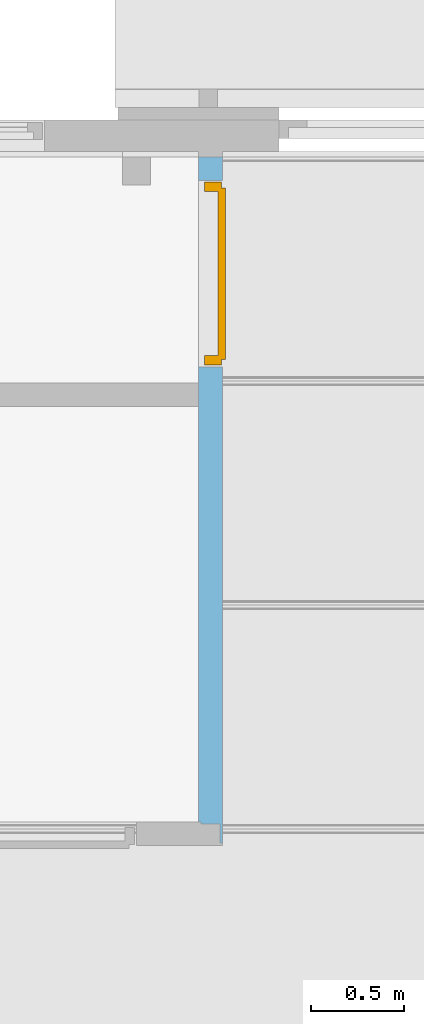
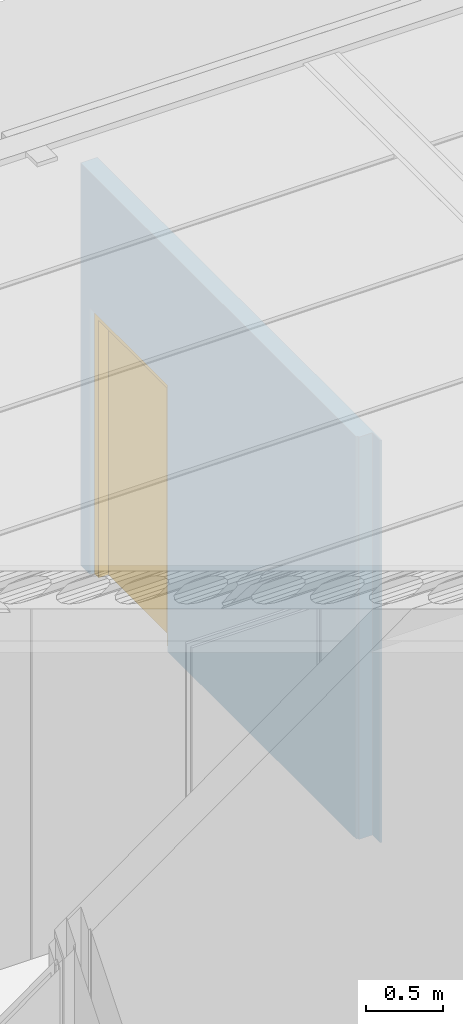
# One storey, part 38 of 45: 1 door, 1 opening, plus 1 element that does not belong to this part.
"""IFC2X3 building model written with IfcOpenShell, lengths in millimetres."""

import ifcopenshell
import ifcopenshell.guid

model = None  # the IFC model being written
_history = None  # IfcOwnerHistory: only IFC2X3 demands one
_inside = {}  # id of a spatial element -> (the spatial element, [elements in it])
_under = {}  # id of a project, library or spatial element -> (it, [spatial elements below it])
_declared = {}  # id of a project -> (the project, [libraries it declares])
_typed = {}  # id of a type object -> (the type object, [elements of that type])
_made_of = {}  # id of a material, layer set ... -> (it, [elements and type objects made of it])


def new_model(schema):
    """Start an empty IFC model of exactly this schema.

    Asked for "IFC4X3", IfcOpenShell would pick the latest addendum, in which some entities
    have other attributes; the version numbers below select the first issue.
    IFC2X3 requires an IfcOwnerHistory on every rooted entity: one is made here for all.
    """
    global model, _history
    if schema == "IFC4X3":
        model = ifcopenshell.file(schema_version=(4, 3, 0, 0))
    else:
        model = ifcopenshell.file(schema=schema)
    _inside.clear()
    _under.clear()
    _declared.clear()
    _typed.clear()
    _made_of.clear()
    _history = None
    if model.schema == "IFC2X3":
        org = make("IfcOrganization", Name="unknown")
        user = make(
            "IfcPersonAndOrganization",
            ThePerson=make("IfcPerson", FamilyName="unknown"),
            TheOrganization=org,
        )
        app = make(
            "IfcApplication",
            ApplicationDeveloper=org,
            Version="unknown",
            ApplicationFullName="unknown",
            ApplicationIdentifier="unknown",
        )
        _history = make(
            "IfcOwnerHistory",
            OwningUser=user,
            OwningApplication=app,
            ChangeAction="ADDED",
            CreationDate=0,
        )
    return model


def make(cls, **values):
    """One entity of the class cls with the attributes given. An attribute that is None is left unset."""
    return model.create_entity(
        cls, **{name: value for name, value in values.items() if value is not None}
    )


def entity(cls, *values):
    """Any entity or typed value of the class cls, its attributes in the order of the schema. None: left unset."""
    e = model.create_entity(cls)
    for i, value in enumerate(values):
        if value is not None:
            e[i] = value
    return e


def rooted(cls, **values):
    """An entity with a GlobalId (a new one), such as an element, a storey or a relation."""
    return make(cls, GlobalId=ifcopenshell.guid.new(), OwnerHistory=_history, **values)


def si_unit(unit_type, name, prefix=None):
    """IfcSIUnit, for example si_unit("LENGTHUNIT", "METRE", prefix="MILLI")."""
    return make("IfcSIUnit", UnitType=unit_type, Prefix=prefix, Name=name)


def converted_unit(unit_type, name, factor, base, dimensions=None, offset=None):
    """IfcConversionBasedUnit, such as the inch: factor (a typed value) times the base unit."""
    return make(
        "IfcConversionBasedUnit"
        if offset is None
        else "IfcConversionBasedUnitWithOffset",
        ConversionOffset=offset,
        Dimensions=None
        if dimensions is None
        else entity("IfcDimensionalExponents", *dimensions),
        UnitType=unit_type,
        Name=name,
        ConversionFactor=make(
            "IfcMeasureWithUnit", ValueComponent=factor, UnitComponent=base
        ),
    )


def assignment(units):
    """IfcUnitAssignment: the units of a project."""
    return None if units is None else make("IfcUnitAssignment", Units=units)


def point(xyz):
    """IfcCartesianPoint."""
    return None if xyz is None else make("IfcCartesianPoint", Coordinates=xyz)


def direction(xyz):
    """IfcDirection."""
    return None if xyz is None else make("IfcDirection", DirectionRatios=xyz)


def frame(location, z_axis=None, x_axis=None):
    """IfcAxis2Placement3D, a coordinate frame: its origin and axes. An axis left out is left unset."""
    return make(
        "IfcAxis2Placement3D",
        Location=point(location),
        Axis=direction(z_axis),
        RefDirection=direction(x_axis),
    )


def frame_2d(location, x_axis=None):
    """IfcAxis2Placement2D, a coordinate frame in the plane: its origin and x axis."""
    return make(
        "IfcAxis2Placement2D", Location=point(location), RefDirection=direction(x_axis)
    )


def origin():
    """The frame at (0, 0, 0) with its axes left unset."""
    return frame((0.0, 0.0, 0.0))


def origin_with_axes():
    """The frame at (0, 0, 0) with the z axis (0, 0, 1) and the x axis (1, 0, 0) written out."""
    return frame((0.0, 0.0, 0.0), z_axis=(0.0, 0.0, 1.0), x_axis=(1.0, 0.0, 0.0))


def place(relative_to, where):
    """IfcLocalPlacement: puts the frame where relative to a parent placement (None: the world)."""
    return make(
        "IfcLocalPlacement", PlacementRelTo=relative_to, RelativePlacement=where
    )


def context(
    kind, dimensions, precision=None, world=None, true_north=None, identifier=None
):
    """IfcGeometricRepresentationContext, for example the 3D "Model" context."""
    return make(
        "IfcGeometricRepresentationContext",
        ContextIdentifier=identifier,
        ContextType=kind,
        CoordinateSpaceDimension=dimensions,
        Precision=precision,
        WorldCoordinateSystem=world,
        TrueNorth=true_north,
    )


def subcontext(parent, identifier, kind, view, scale=None):
    """IfcGeometricRepresentationSubContext, for example "Body" below "Model"."""
    return make(
        "IfcGeometricRepresentationSubContext",
        ContextIdentifier=identifier,
        ContextType=kind,
        ParentContext=parent,
        TargetScale=scale,
        TargetView=view,
    )


def project(units=None, contexts=None):
    """IfcProject with its units and contexts."""
    return rooted(
        "IfcProject",
        Name="project",
        RepresentationContexts=contexts,
        UnitsInContext=assignment(units),
    )


def spatial(cls, under=None, at=None, **own):
    """A site, building, storey or space (cls), placed at a placement, below another one or the project."""
    s = rooted(cls, ObjectPlacement=at, **own)
    if under is not None:
        _under.setdefault(under.id(), (under, []))[1].append(s)
    return s


def polyline(points):
    """IfcPolyline through the points."""
    return make("IfcPolyline", Points=[point(p) for p in points])


def profile(cls, at=None, kind="AREA", **sizes):
    """A parametric profile (cls). Its sizes go by their IFC names, for example OverallWidth=200.0."""
    return make(cls, ProfileType=kind, Position=at, **sizes)


def rectangle(**sizes):
    """IfcRectangleProfileDef."""
    return profile("IfcRectangleProfileDef", **sizes)


def outline(outer, holes=None, kind="AREA"):
    """IfcArbitraryClosedProfileDef: a profile drawn as a closed curve; with holes, ...WithVoids."""
    if holes is None:
        return make("IfcArbitraryClosedProfileDef", ProfileType=kind, OuterCurve=outer)
    return make(
        "IfcArbitraryProfileDefWithVoids",
        ProfileType=kind,
        OuterCurve=outer,
        InnerCurves=holes,
    )


def extrude(swept, where, along, depth):
    """IfcExtrudedAreaSolid: the profile swept, set in the frame where, extruded along a direction by depth."""
    return make(
        "IfcExtrudedAreaSolid",
        SweptArea=swept,
        Position=where,
        ExtrudedDirection=direction(along),
        Depth=depth,
    )


def faces_of(points, faces, orient=None, outer=None):
    """IfcFace entities. A face is a list of loops; a loop is a list of indices into points, from 0.

    orient and outer hold one flag for each loop. By default every Orientation is true, the
    first loop of a face is its IfcFaceOuterBound and the others are IfcFaceBound.
    """
    made = []
    for i, loops in enumerate(faces):
        bounds = []
        for j, loop in enumerate(loops):
            is_outer = j == 0 if outer is None else outer[i][j]
            bounds.append(
                make(
                    "IfcFaceOuterBound" if is_outer else "IfcFaceBound",
                    Bound=make("IfcPolyLoop", Polygon=[points[k] for k in loop]),
                    Orientation=True if orient is None else orient[i][j],
                )
            )
        made.append(make("IfcFace", Bounds=bounds))
    return made


def faceted_brep(points, faces, orient=None, outer=None, voids=None):
    """IfcFacetedBrep: a solid bounded by flat faces; with voids (closed shells), ...WithVoids."""
    shared = [point(p) for p in points]
    hull = make("IfcClosedShell", CfsFaces=faces_of(shared, faces, orient, outer))
    if voids is None:
        return make("IfcFacetedBrep", Outer=hull)
    return make(
        "IfcFacetedBrepWithVoids",
        Outer=hull,
        Voids=[
            make(cls, CfsFaces=faces_of(shared, fs, o, b)) for cls, fs, o, b in voids
        ],
    )


def shape(context_of_items, identifier, shape_type, items):
    """IfcShapeRepresentation: the items that make up one representation, for example the "Body"."""
    return make(
        "IfcShapeRepresentation",
        ContextOfItems=context_of_items,
        RepresentationIdentifier=identifier,
        RepresentationType=shape_type,
        Items=items,
    )


def material(Name=None, Category=None):
    """IfcMaterial."""
    return make("IfcMaterial", Name=Name, Category=Category)


def layer(
    of_material, thickness, ventilated=None, Name=None, Category=None, Priority=None
):
    """IfcMaterialLayer: one layer of a wall or slab, of a material (None: an air gap)."""
    return make(
        "IfcMaterialLayer",
        Material=of_material,
        LayerThickness=thickness,
        IsVentilated=ventilated,
        Name=Name,
        Category=Category,
        Priority=Priority,
    )


def layer_set(layers, Name=None):
    """IfcMaterialLayerSet."""
    return make("IfcMaterialLayerSet", MaterialLayers=layers, LayerSetName=Name)


def layer_usage(for_layer_set, set_direction, sense, offset, extent=None):
    """IfcMaterialLayerSetUsage: how a layer set lies in its element."""
    return make(
        "IfcMaterialLayerSetUsage",
        ForLayerSet=for_layer_set,
        LayerSetDirection=set_direction,
        DirectionSense=sense,
        OffsetFromReferenceLine=offset,
        ReferenceExtent=extent,
    )


def made_of(thing, what):
    """Note that an element or type object is made of a material, layer set ...; save() writes the relation."""
    if what is not None:
        _made_of.setdefault(what.id(), (what, []))[1].append(thing)
    return thing


def type_object(cls, material=None, **own):
    """A type object (cls), such as IfcWallType, which elements share."""
    return made_of(rooted(cls, **own), material)


def element(
    cls,
    number,
    at=None,
    inside=None,
    cuts=None,
    type_object=None,
    material=None,
    context=None,
    identifier="Body",
    shape_type=None,
    held_by="IfcProductDefinitionShape",
    body=None,
    shapes=None,
    **own,
):
    """One element of the class cls, such as IfcWall. Its Tag is "e" and its number.

    at: its placement. inside: the storey or other place that contains it. cuts: it is an
    opening in that element (IfcRelVoidsElement). A single representation is given by context,
    identifier, shape_type and body (its items); several are given by shapes. held_by: the class
    of the entity that holds the representations. save() writes the other relations.
    """
    e = rooted(cls, Tag="e%d" % number, ObjectPlacement=at, **own)
    if body is not None:
        shapes = [shape(context, identifier, shape_type, body)]
    if shapes is not None:
        e.Representation = make(held_by, Representations=shapes)
    if inside is not None:
        _inside.setdefault(inside.id(), (inside, []))[1].append(e)
    if cuts is not None:
        rooted(
            "IfcRelVoidsElement", RelatingBuildingElement=cuts, RelatedOpeningElement=e
        )
    if type_object is not None:
        _typed.setdefault(type_object.id(), (type_object, []))[1].append(e)
    return made_of(e, material)


def fill(opening, filler):
    """IfcRelFillsElement: the door or window that sits in an opening."""
    return rooted(
        "IfcRelFillsElement",
        RelatingOpeningElement=opening,
        RelatedBuildingElement=filler,
    )


def aggregate(whole, parts):
    """IfcRelAggregates: a whole, such as a stair, and the parts it consists of."""
    return rooted("IfcRelAggregates", RelatingObject=whole, RelatedObjects=parts)


def save(model, path):
    """Write the relations noted so far, then the file.

    IfcRelAggregates (storeys below a building ...), IfcRelContainedInSpatialStructure (elements
    in a storey), IfcRelDefinesByType, IfcRelAssociatesMaterial and IfcRelDeclares: one each for
    every whole, place, type object, material and project.
    """
    for whole, parts in _under.values():
        aggregate(whole, parts)
    for where, things in _inside.values():
        rooted(
            "IfcRelContainedInSpatialStructure",
            RelatedElements=things,
            RelatingStructure=where,
        )
    for kind, things in _typed.values():
        rooted("IfcRelDefinesByType", RelatedObjects=things, RelatingType=kind)
    for what, things in _made_of.values():
        rooted("IfcRelAssociatesMaterial", RelatedObjects=things, RelatingMaterial=what)
    for by, libraries in _declared.values():
        rooted("IfcRelDeclares", RelatingContext=by, RelatedDefinitions=libraries)
    model.write(path)


model = new_model("IFC2X3")

# Units and contexts
model_context = context("Model", 3, precision=1e-05, world=origin())
plan_context = context("Plan", 3, precision=1e-05, world=origin())
body_context = subcontext(model_context, "Body", "Model", "MODEL_VIEW")
ifc_project = project(units=[si_unit("LENGTHUNIT", "METRE", prefix="MILLI"), converted_unit("PLANEANGLEUNIT", "DEGREE", entity("IfcPlaneAngleMeasure", 0.0174532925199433), si_unit("PLANEANGLEUNIT", "RADIAN"), dimensions=[0, 0, 0, 0, 0, 0, 0]), si_unit("AREAUNIT", "SQUARE_METRE"), si_unit("VOLUMEUNIT", "CUBIC_METRE")], contexts=[model_context, plan_context])

# Building, storey
building_placement = place(None, origin())
building = spatial("IfcBuilding", under=ifc_project, at=building_placement, Name="HEKF Administrasjonbygg", CompositionType="ELEMENT")
storey_placement = place(building_placement, frame((0.0, 0.0, 6500.0), z_axis=(0.0, 0.0, 1.0), x_axis=(1.0, 0.0, 0.0)))
storey = spatial("IfcBuildingStorey", under=building, at=storey_placement, Name="Plan 1", CompositionType="ELEMENT", Elevation=6500.0)

# Wall, opening, door
ifc_material_1 = material(Name="gips")
ifc_layer_1 = layer(ifc_material_1, 13.0)
ifc_material_2 = material(Name="riegel stål 100")
ifc_layer_2 = layer(ifc_material_2, 100.0)
ifc_material_3 = material(Name="gips")
ifc_layer_3 = layer(ifc_material_3, 13.0)
ifc_layer_set = layer_set([ifc_layer_1, ifc_layer_2, ifc_layer_3])
ifc_layer_usage = layer_usage(ifc_layer_set, "AXIS2", "POSITIVE", 0.0)
wall_placement = place(storey_placement, frame((25332.53680645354, 0.0, 0.0), z_axis=(0.0, 0.0, 1.0), x_axis=(0.0, -1.0, 0.0)))
wall = element("IfcWallStandardCase", 1, at=wall_placement, inside=storey, material=ifc_layer_usage, context=body_context, shape_type="SweptSolid", body=[
    extrude(outline(polyline([(0.0, 0.0), (3561.0, 0.0), (3561.0, 13.0), (3574.0, 13.0), (3574.0, 113.0), (3674.0, 113.0), (3674.0, 126.0), (0.0, 126.0), (0.0, 0.0)])), origin_with_axes(), (0.0, 0.0, 1.0), 3170.0),
])
opening_placement = place(wall_placement, frame((124.0, 0.0, 0.0), z_axis=(0.0, 1.0, 0.0), x_axis=(0.0, 0.0, 1.0)))
opening = element("IfcOpeningElement", 2, at=opening_placement, cuts=wall, Name="D026", ObjectType="Opening", context=body_context, shape_type="SweptSolid", body=[
    extrude(rectangle(XDim=2100.0, YDim=1000.0, at=frame_2d((1050.0, 500.0), x_axis=(1.0, 0.0))), origin_with_axes(), (0.0, 0.0, 1.0), 126.0),
])
ifc_material_4 = material()
door_style = type_object("IfcDoorStyle", Name="D026", ConstructionType="NOTDEFINED", OperationType="USERDEFINED", ParameterTakesPrecedence=False, Sizeable=False)
door_placement = place(opening_placement, frame((0.0, 0.0, 0.0), z_axis=(1.0, 0.0, 0.0), x_axis=(0.0, 1.0, 0.0)))
door = element("IfcDoor", 3, at=door_placement, inside=storey, type_object=door_style, material=ifc_material_4, Name="D026", OverallHeight=2100.0, OverallWidth=1000.0, context=body_context, shape_type="Brep", body=[
    faceted_brep([(990.0, 29.9999999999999, 2080.0), (990.0, 30.00000000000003, -2.816687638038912e-15), (940.0, 30.00000000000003, -2.816687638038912e-15), (940.0, 29.9999999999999, 2080.0), (990.0, 122.0, 2.816687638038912e-15), (990.0, 121.9999999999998, 2080.0), (940.0, 121.9999999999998, 2080.0), (940.0, 122.0, 2.816687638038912e-15), (990.0, 30.00000000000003, -2.816687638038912e-15), (990.0, 29.9999999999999, 2080.0), (990.0, 121.9999999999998, 2080.0), (990.0, 122.0, 2.816687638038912e-15), (940.0, 30.00000000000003, -2.816687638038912e-15), (990.0, 30.00000000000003, -2.816687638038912e-15), (990.0, 122.0, 2.816687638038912e-15), (940.0, 122.0, 2.816687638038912e-15), (940.0, 29.9999999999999, 2080.0), (940.0, 30.00000000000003, -2.816687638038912e-15), (940.0, 122.0, 2.816687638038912e-15), (940.0, 121.9999999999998, 2080.0), (990.0, 29.9999999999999, 2080.0), (940.0, 29.9999999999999, 2080.0), (940.0, 121.9999999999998, 2080.0), (990.0, 121.9999999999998, 2080.0)], [[[0, 1, 2, 3]], [[4, 5, 6, 7]], [[8, 9, 10, 11]], [[12, 13, 14, 15]], [[16, 17, 18, 19]], [[20, 21, 22, 23]]], orient=[[False], [False], [False], [False], [False], [False]]),
    faceted_brep([(60.00000000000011, 29.99999999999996, 2080.0), (60.00000000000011, 30.00000000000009, -2.816687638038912e-15), (10.00000000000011, 30.00000000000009, -2.816687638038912e-15), (10.00000000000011, 29.99999999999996, 2080.0), (60.00000000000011, 122.0, 2.816687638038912e-15), (60.00000000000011, 121.9999999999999, 2080.0), (10.00000000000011, 121.9999999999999, 2080.0), (10.00000000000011, 122.0, 2.816687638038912e-15), (60.00000000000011, 30.00000000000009, -2.816687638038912e-15), (60.00000000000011, 29.99999999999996, 2080.0), (60.00000000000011, 121.9999999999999, 2080.0), (60.00000000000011, 122.0, 2.816687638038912e-15), (10.00000000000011, 30.00000000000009, -2.816687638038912e-15), (60.00000000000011, 30.00000000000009, -2.816687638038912e-15), (60.00000000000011, 122.0, 2.816687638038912e-15), (10.00000000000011, 122.0, 2.816687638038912e-15), (10.00000000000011, 29.99999999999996, 2080.0), (10.00000000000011, 30.00000000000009, -2.816687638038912e-15), (10.00000000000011, 122.0, 2.816687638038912e-15), (10.00000000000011, 121.9999999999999, 2080.0), (60.00000000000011, 29.99999999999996, 2080.0), (10.00000000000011, 29.99999999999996, 2080.0), (10.00000000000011, 121.9999999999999, 2080.0), (60.00000000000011, 121.9999999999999, 2080.0)], [[[0, 1, 2, 3]], [[4, 5, 6, 7]], [[8, 9, 10, 11]], [[12, 13, 14, 15]], [[16, 17, 18, 19]], [[20, 21, 22, 23]]], orient=[[False], [False], [False], [False], [False], [False]]),
    faceted_brep([(940.0, 29.9999999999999, 2080.0), (940.0, 29.9999999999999, 2030.0), (60.00000000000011, 29.99999999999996, 2030.0), (60.00000000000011, 29.99999999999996, 2080.0), (940.0, 121.9999999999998, 2030.0), (940.0, 121.9999999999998, 2080.000000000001), (60.00000000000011, 121.9999999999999, 2080.000000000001), (60.00000000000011, 121.9999999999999, 2030.0), (940.0, 29.9999999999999, 2030.0), (940.0, 29.9999999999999, 2080.0), (940.0, 121.9999999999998, 2080.000000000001), (940.0, 121.9999999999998, 2030.0), (60.00000000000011, 29.99999999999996, 2030.0), (940.0, 29.9999999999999, 2030.0), (940.0, 121.9999999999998, 2030.0), (60.00000000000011, 121.9999999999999, 2030.0), (60.00000000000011, 29.99999999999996, 2080.0), (60.00000000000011, 29.99999999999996, 2030.0), (60.00000000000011, 121.9999999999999, 2030.0), (60.00000000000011, 121.9999999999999, 2080.000000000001), (940.0, 29.9999999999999, 2080.0), (60.00000000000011, 29.99999999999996, 2080.0), (60.00000000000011, 121.9999999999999, 2080.000000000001), (940.0, 121.9999999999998, 2080.000000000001)], [[[0, 1, 2, 3]], [[4, 5, 6, 7]], [[8, 9, 10, 11]], [[12, 13, 14, 15]], [[16, 17, 18, 19]], [[20, 21, 22, 23]]], orient=[[False], [False], [False], [False], [False], [False]]),
    faceted_brep([(960.0, 101.9999999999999, 2050.000000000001), (960.0, 102.0, 1.592040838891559e-15), (40.00000000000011, 102.0, 1.592040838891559e-15), (40.00000000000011, 101.9999999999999, 2050.000000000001), (960.0, 142.0, 4.041334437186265e-15), (960.0, 141.9999999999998, 2050.000000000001), (40.00000000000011, 141.9999999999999, 2050.000000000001), (40.00000000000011, 142.0, 4.041334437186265e-15), (960.0, 102.0, 1.592040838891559e-15), (960.0, 101.9999999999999, 2050.000000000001), (960.0, 141.9999999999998, 2050.000000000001), (960.0, 142.0, 4.041334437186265e-15), (40.00000000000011, 102.0, 1.592040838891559e-15), (960.0, 102.0, 1.592040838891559e-15), (960.0, 142.0, 4.041334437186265e-15), (40.00000000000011, 142.0, 4.041334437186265e-15), (40.00000000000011, 101.9999999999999, 2050.000000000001), (40.00000000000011, 102.0, 1.592040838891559e-15), (40.00000000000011, 142.0, 4.041334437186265e-15), (40.00000000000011, 141.9999999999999, 2050.000000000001), (960.0, 101.9999999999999, 2050.000000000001), (40.00000000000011, 101.9999999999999, 2050.000000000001), (40.00000000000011, 141.9999999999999, 2050.000000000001), (960.0, 141.9999999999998, 2050.000000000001)], [[[0, 1, 2, 3]], [[4, 5, 6, 7]], [[8, 9, 10, 11]], [[12, 13, 14, 15]], [[16, 17, 18, 19]], [[20, 21, 22, 23]]], orient=[[False], [False], [False], [False], [False], [False]]),
])
fill(opening, door)

save(model, "model.ifc")
